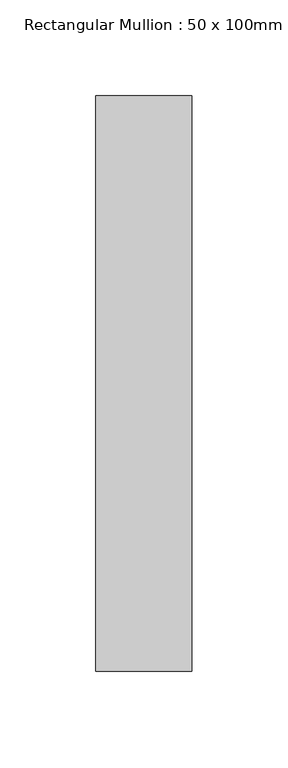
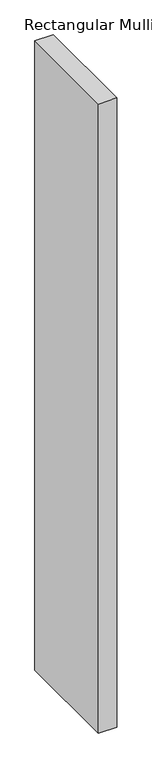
"""IFC4 building model written with IfcOpenShell, lengths in millimetres: member geometry, Rectangular Mullion : 50 x 100mm."""

from ifc_helpers import new_model, si_unit, frame, origin, place, context, project, spatial, polyline, outline, extrude, source, transform, mapped, element, save


def rectangular_mullion_50_x_100mm_112b2ebf(model_context):
    return source(origin(), model_context, "Body", "SweptSolid", [
        extrude(outline(polyline([(0.0, 175.0), (0.0, -125.0), (-50.0, -125.0), (-50.0, 175.0), (0.0, 175.0)])), frame((0.0, 0.0, -1814.0731694), z_axis=(0.0, 0.0, 1.0), x_axis=(1.0, 0.0, 0.0)), (0.0, 0.0, 1.0), 1814.0731694),
    ])


if __name__ == "__main__":
    model = new_model("IFC4")
    model_context = context("Model", 3, world=origin())
    ifc_project = project(units=[si_unit("LENGTHUNIT", "METRE", prefix="MILLI")], contexts=[model_context])
    site = spatial("IfcSite", under=ifc_project)
    building = spatial("IfcBuilding", under=site)
    placement = place(None, origin())
    rectangular_mullion_50_x_100mm_shape = rectangular_mullion_50_x_100mm_112b2ebf(model_context)
    element("IfcMember", 1, ObjectType="Rectangular Mullion : 50 x 100mm", at=placement, inside=building, context=model_context, shape_type="MappedRepresentation", body=[
        mapped(rectangular_mullion_50_x_100mm_shape, transform((0.0, 0.0, 0.0), x_axis=(1.0, 0.0, 0.0), y_axis=(0.0, 1.0, 0.0), z_axis=(0.0, 0.0, 1.0))),
    ])
    save(model, "model.ifc")
